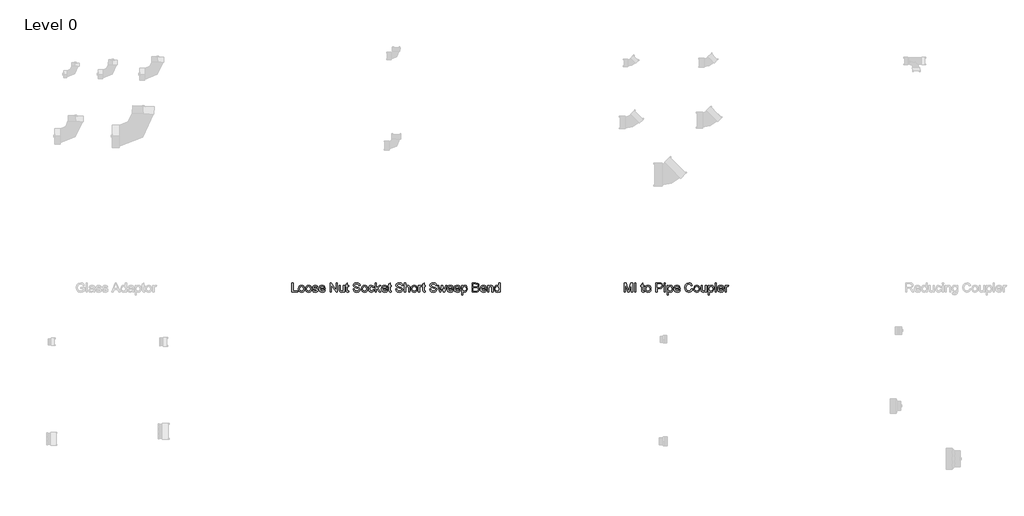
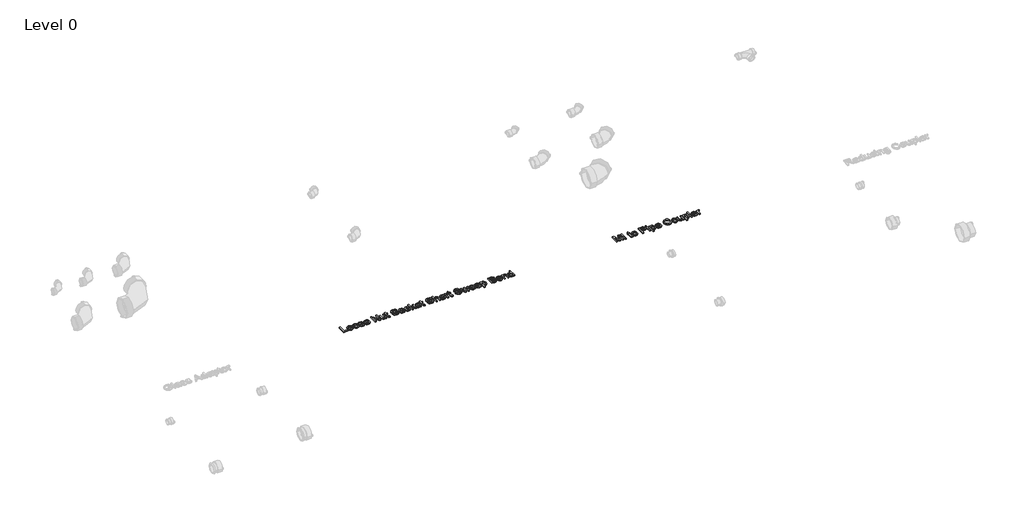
# One storey, part 6 of 10: 2 proxies.
"""IFC4 building model written with IfcOpenShell, lengths in millimetres."""

from ifc_helpers import new_model, si_unit, origin, origin_with_axes, place, context, project, spatial, polyline, outline, extrude, element, save

model = new_model("IFC4")

# Units and contexts
model_context = context("Model", 3, world=origin())
ifc_project = project(units=[si_unit("LENGTHUNIT", "METRE", prefix="MILLI")], contexts=[model_context])

# Site, building, storey
site = spatial("IfcSite", under=ifc_project)
building = spatial("IfcBuilding", under=site)
storey = spatial("IfcBuildingStorey", under=building, Name="Level 0", Elevation=0.0)

# Proxies
placement = place(None, origin())
element("IfcBuildingElementProxy", 1, Name="75mm Arial", ObjectType="75mm Arial", at=placement, inside=storey, context=model_context, shape_type="SweptSolid", body=[
    extrude(outline(polyline([(-700.8694108, 1106.6243175), (-700.8694108, 1180.4704713), (-684.9859973, 1180.4704713), (-669.8778242, 1128.4211925), (-666.8309492, 1117.5497982), (-663.5316704, 1129.3226348), (-648.6759012, 1180.4704713), (-632.7924877, 1180.4704713), (-632.7924877, 1106.6243175), (-642.0232569, 1106.6243175), (-642.0232569, 1171.2397021), (-660.5749396, 1106.6243175), (-673.0869589, 1106.6243175), (-691.6386416, 1171.2397021), (-691.6386416, 1106.6243175), (-700.8694108, 1106.6243175)])), origin_with_axes(), (0.0, 0.0, 1.0), 10.0),
    extrude(outline(polyline([(-615.4847954, 1106.6243175), (-615.4847954, 1180.4704713), (-606.2540262, 1180.4704713), (-606.2540262, 1106.6243175), (-615.4847954, 1106.6243175)])), origin_with_axes(), (0.0, 0.0, 1.0), 10.0),
    extrude(outline(polyline([(-540.4847954, 1114.3226348), (-539.3309492, 1106.3538848), (-546.2359973, 1105.4704713), (-553.9703723, 1107.0029232), (-557.8285454, 1111.0233559), (-558.9463339, 1121.4981155), (-558.9463339, 1151.6243175), (-565.8694108, 1151.6243175), (-565.8694108, 1160.8550867), (-558.9463339, 1160.8550867), (-558.9463339, 1174.0341732), (-549.7155646, 1179.4608559), (-549.7155646, 1160.8550867), (-540.4847954, 1160.8550867), (-540.4847954, 1151.6243175), (-549.7155646, 1151.6243175), (-549.7155646, 1121.7685482), (-549.2287858, 1117.0089328), (-547.6512617, 1115.3232357), (-544.5052281, 1114.7012405), (-540.4847954, 1114.3226348)])), origin_with_axes(), (0.0, 0.0, 1.0), 10.0),
    extrude(outline(polyline([(-533.5617185, 1133.7397021), (-531.5650238, 1146.8151228), (-525.5749396, 1156.0053271), (-518.1740983, 1160.5080314), (-509.3129204, 1162.0089328), (-499.6156548, 1160.1812586), (-491.8700117, 1154.6982357), (-486.7926379, 1145.9925566), (-485.10018, 1134.4969136), (-488.0929685, 1118.0726348), (-496.8099156, 1108.7787646), (-509.3129204, 1105.4704713), (-519.1273735, 1107.2913848), (-526.8640021, 1112.7541252), (-531.8872894, 1121.6423463), (-533.5617185, 1133.7397021)]), holes=[polyline([(-524.3309492, 1133.7577309), (-520.0581127, 1119.4518415), (-509.3129204, 1114.7012405), (-498.6037858, 1119.4788848), (-494.3309492, 1134.0461925), (-498.6308291, 1148.0275627), (-509.3129204, 1152.7781636), (-520.0581127, 1148.0455915), (-524.3309492, 1133.7577309)])]), origin_with_axes(), (0.0, 0.0, 1.0), 10.0),
    extrude(outline(polyline([(-444.7155646, 1106.6243175), (-444.7155646, 1180.4704713), (-417.3477762, 1180.4704713), (-406.3141223, 1179.7673463), (-397.3447714, 1176.3148223), (-391.5304685, 1169.1753992), (-389.3309492, 1159.1062886), (-390.8160754, 1150.4028631), (-395.2714541, 1143.1507598), (-403.6030346, 1138.255928), (-416.7167666, 1136.6243175), (-435.4847954, 1136.6243175), (-435.4847954, 1106.6243175), (-444.7155646, 1106.6243175)]), holes=[polyline([(-435.4847954, 1145.8550867), (-416.1759012, 1145.8550867), (-402.5821512, 1149.2445098), (-398.5617185, 1158.7817694), (-400.9325117, 1166.4260002), (-407.1614781, 1170.6086925), (-416.3922473, 1171.2397021), (-435.4847954, 1171.2397021), (-435.4847954, 1145.8550867)])]), origin_with_axes(), (0.0, 0.0, 1.0), 10.0),
    extrude(outline(polyline([(-377.7924877, 1106.6243175), (-377.7924877, 1160.8550867), (-368.5617185, 1160.8550867), (-368.5617185, 1106.6243175), (-377.7924877, 1106.6243175)])), origin_with_axes(), (0.0, 0.0, 1.0), 10.0),
    extrude(outline(polyline([(-377.7924877, 1171.2397021), (-377.7924877, 1180.4704713), (-368.5617185, 1180.4704713), (-368.5617185, 1171.2397021), (-377.7924877, 1171.2397021)])), origin_with_axes(), (0.0, 0.0, 1.0), 10.0),
    extrude(outline(polyline([(-354.7155646, 1085.8550867), (-354.7155646, 1160.8550867), (-345.4847954, 1160.8550867), (-345.4847954, 1151.8046059), (-339.1025839, 1159.4578511), (-330.4847954, 1162.0089328), (-318.7840742, 1158.4392213), (-311.1398435, 1148.3791252), (-308.5617185, 1134.1543655), (-311.4733771, 1119.1994377), (-319.928906, 1109.0131396), (-331.6025839, 1105.4704713), (-339.6344348, 1107.8412646), (-345.4847954, 1113.8358559), (-345.4847954, 1085.8550867), (-354.7155646, 1085.8550867)]), holes=[polyline([(-345.4847954, 1133.3070098), (-341.491406, 1119.2445098), (-331.8009012, 1114.7012405), (-321.9120791, 1119.4067694), (-317.7924877, 1133.9921059), (-321.8129204, 1148.0906636), (-331.4222954, 1152.7781636), (-341.2209733, 1147.7931877), (-345.4847954, 1133.3070098)])]), origin_with_axes(), (0.0, 0.0, 1.0), 10.0),
    extrude(outline(polyline([(-260.2083531, 1122.7781636), (-251.1578723, 1121.6243175), (-259.6224156, 1109.7072502), (-275.3886416, 1105.4704713), (-286.2194709, 1107.2981456), (-294.553305, 1112.7811684), (-299.8673074, 1121.5634701), (-301.6386416, 1133.2889809), (-299.8492786, 1145.4088728), (-294.4811896, 1154.4728752), (-286.2600358, 1160.1249184), (-275.9114781, 1162.0089328), (-265.885186, 1160.1294256), (-257.8736175, 1154.490904), (-252.6204625, 1145.4449304), (-250.8694108, 1133.3430675), (-250.9234973, 1130.8550867), (-292.4078723, 1130.8550867), (-287.0983771, 1118.865904), (-275.2083531, 1114.7012405), (-266.1578723, 1116.6303271), (-260.2083531, 1122.7781636)]), holes=[polyline([(-292.4078723, 1140.0858559), (-260.10018, 1140.0858559), (-263.7960935, 1148.4512405), (-275.9475358, 1152.7781636), (-287.3147233, 1149.3256396), (-292.4078723, 1140.0858559)])]), origin_with_axes(), (0.0, 0.0, 1.0), 10.0),
    extrude(outline(polyline([(-159.7155646, 1132.8743175), (-150.4847954, 1130.4945098), (-154.7441103, 1119.7380494), (-161.428305, 1111.8797261), (-170.2083531, 1107.072785), (-180.7552281, 1105.4704713), (-199.9649637, 1110.3202309), (-211.2329925, 1124.3647021), (-215.10018, 1144.1062886), (-210.7281848, 1164.1723944), (-198.2972954, 1177.1802069), (-180.5569108, 1181.6243175), (-170.4359673, 1180.186517), (-162.0683291, 1175.8731155), (-155.7154144, 1168.9500386), (-151.6386416, 1159.6832117), (-160.8694108, 1157.4836925), (-168.4415262, 1168.8328511), (-180.9174877, 1172.3935482), (-195.3585935, 1168.4452309), (-203.5166464, 1157.8442694), (-205.8694108, 1144.1243175), (-203.0839541, 1128.2228752), (-194.4120791, 1118.0636203), (-181.6746992, 1114.7012405), (-167.5490983, 1119.2805675), (-159.7155646, 1132.8743175)])), origin_with_axes(), (0.0, 0.0, 1.0), 10.0),
    extrude(outline(polyline([(-141.2540262, 1133.7397021), (-139.2573315, 1146.8151228), (-133.2672473, 1156.0053271), (-125.866406, 1160.5080314), (-117.0052281, 1162.0089328), (-107.3079625, 1160.1812586), (-99.5623194, 1154.6982357), (-94.4849456, 1145.9925566), (-92.7924877, 1134.4969136), (-95.7852762, 1118.0726348), (-104.5022233, 1108.7787646), (-117.0052281, 1105.4704713), (-126.8196812, 1107.2913848), (-134.5563098, 1112.7541252), (-139.5795971, 1121.6423463), (-141.2540262, 1133.7397021)]), holes=[polyline([(-132.0232569, 1133.7577309), (-127.7504204, 1119.4518415), (-117.0052281, 1114.7012405), (-106.2960935, 1119.4788848), (-102.0232569, 1134.0461925), (-106.3231367, 1148.0275627), (-117.0052281, 1152.7781636), (-127.7504204, 1148.0455915), (-132.0232569, 1133.7577309)])]), origin_with_axes(), (0.0, 0.0, 1.0), 10.0),
    extrude(outline(polyline([(-47.7924877, 1106.6243175), (-47.7924877, 1115.9452309), (-55.022055, 1108.0891612), (-64.4511416, 1105.4704713), (-73.132031, 1107.3094136), (-79.1176079, 1111.9247982), (-81.8670069, 1118.7216732), (-82.4078723, 1127.303404), (-82.4078723, 1160.8550867), (-73.1771031, 1160.8550867), (-73.1771031, 1131.6483559), (-72.6182089, 1122.2372982), (-68.9673675, 1116.7114569), (-62.0893627, 1114.7012405), (-54.382031, 1116.756529), (-49.2888819, 1122.3544857), (-47.7924877, 1132.6399425), (-47.7924877, 1160.8550867), (-38.5617185, 1160.8550867), (-38.5617185, 1106.6243175), (-47.7924877, 1106.6243175)])), origin_with_axes(), (0.0, 0.0, 1.0), 10.0),
    extrude(outline(polyline([(-25.8694108, 1085.8550867), (-25.8694108, 1160.8550867), (-16.6386416, 1160.8550867), (-16.6386416, 1151.8046059), (-10.25643, 1159.4578511), (-1.6386416, 1162.0089328), (10.0620796, 1158.4392213), (17.7063104, 1148.3791252), (20.2844354, 1134.1543655), (17.3727767, 1119.1994377), (8.9172479, 1109.0131396), (-2.75643, 1105.4704713), (-10.788281, 1107.8412646), (-16.6386416, 1113.8358559), (-16.6386416, 1085.8550867), (-25.8694108, 1085.8550867)]), holes=[polyline([(-16.6386416, 1133.3070098), (-12.6452521, 1119.2445098), (-2.9547473, 1114.7012405), (6.9340748, 1119.4067694), (11.0536661, 1133.9921059), (7.0332334, 1148.0906636), (-2.5761416, 1152.7781636), (-12.3748194, 1147.7931877), (-16.6386416, 1133.3070098)])]), origin_with_axes(), (0.0, 0.0, 1.0), 10.0),
    extrude(outline(polyline([(30.6690508, 1106.6243175), (30.6690508, 1180.4704713), (39.89982, 1180.4704713), (39.89982, 1106.6243175), (30.6690508, 1106.6243175)])), origin_with_axes(), (0.0, 0.0, 1.0), 10.0),
    extrude(outline(polyline([(91.7147238, 1122.7781636), (100.7652046, 1121.6243175), (92.3006613, 1109.7072502), (76.5344354, 1105.4704713), (65.703606, 1107.2981456), (57.3697719, 1112.7811684), (52.0557695, 1121.5634701), (50.2844354, 1133.2889809), (52.0737983, 1145.4088728), (57.4418873, 1154.4728752), (65.6630411, 1160.1249184), (76.0115988, 1162.0089328), (86.0378909, 1160.1294256), (94.0494594, 1154.490904), (99.3026145, 1145.4449304), (101.0536661, 1133.3430675), (100.9995796, 1130.8550867), (59.5152046, 1130.8550867), (64.8246998, 1118.865904), (76.7147238, 1114.7012405), (85.7652046, 1116.6303271), (91.7147238, 1122.7781636)]), holes=[polyline([(59.5152046, 1140.0858559), (91.8228969, 1140.0858559), (88.1269834, 1148.4512405), (75.9755411, 1152.7781636), (64.6083536, 1149.3256396), (59.5152046, 1140.0858559)])]), origin_with_axes(), (0.0, 0.0, 1.0), 10.0),
    extrude(outline(polyline([(110.2844354, 1106.6243175), (110.2844354, 1160.8550867), (118.3613584, 1160.8550867), (118.3613584, 1152.8322502), (124.0945315, 1160.2240771), (129.8637623, 1162.0089328), (139.1305892, 1159.1603752), (136.0476565, 1150.8851348), (129.5572719, 1152.7781636), (124.3379209, 1150.9572502), (121.0115988, 1145.9091732), (119.5152046, 1135.1279232), (119.5152046, 1106.6243175), (110.2844354, 1106.6243175)])), origin_with_axes(), (0.0, 0.0, 1.0), 10.0),
])
element("IfcBuildingElementProxy", 2, Name="75mm Arial", ObjectType="75mm Arial", at=placement, inside=storey, context=model_context, shape_type="SweptSolid", body=[
    extrude(outline(polyline([(-3371.4463339, 1106.6243175), (-3371.4463339, 1180.4704713), (-3362.2155646, 1180.4704713), (-3362.2155646, 1115.8550867), (-3325.2924877, 1115.8550867), (-3325.2924877, 1106.6243175), (-3371.4463339, 1106.6243175)])), origin_with_axes(), (0.0, 0.0, 1.0), 10.0),
    extrude(outline(polyline([(-3318.3694108, 1133.7397021), (-3316.3727161, 1146.8151228), (-3310.3826319, 1156.0053271), (-3302.9817906, 1160.5080314), (-3294.1206127, 1162.0089328), (-3284.4233471, 1160.1812586), (-3276.6777041, 1154.6982357), (-3271.6003303, 1145.9925566), (-3269.9078723, 1134.4969136), (-3272.9006608, 1118.0726348), (-3281.6176079, 1108.7787646), (-3294.1206127, 1105.4704713), (-3303.9350658, 1107.2913848), (-3311.6716944, 1112.7541252), (-3316.6949817, 1121.6423463), (-3318.3694108, 1133.7397021)]), holes=[polyline([(-3309.1386416, 1133.7577309), (-3304.865805, 1119.4518415), (-3294.1206127, 1114.7012405), (-3283.4114781, 1119.4788848), (-3279.1386416, 1134.0461925), (-3283.4385214, 1148.0275627), (-3294.1206127, 1152.7781636), (-3304.865805, 1148.0455915), (-3309.1386416, 1133.7577309)])]), origin_with_axes(), (0.0, 0.0, 1.0), 10.0),
    extrude(outline(polyline([(-3261.8309492, 1133.7397021), (-3259.8342545, 1146.8151228), (-3253.8441704, 1156.0053271), (-3246.4433291, 1160.5080314), (-3237.5821512, 1162.0089328), (-3227.8848855, 1160.1812586), (-3220.1392425, 1154.6982357), (-3215.0618687, 1145.9925566), (-3213.3694108, 1134.4969136), (-3216.3621992, 1118.0726348), (-3225.0791464, 1108.7787646), (-3237.5821512, 1105.4704713), (-3247.3966043, 1107.2913848), (-3255.1332329, 1112.7541252), (-3260.1565202, 1121.6423463), (-3261.8309492, 1133.7397021)]), holes=[polyline([(-3252.60018, 1133.7577309), (-3248.3273435, 1119.4518415), (-3237.5821512, 1114.7012405), (-3226.8730166, 1119.4788848), (-3222.60018, 1134.0461925), (-3226.9000598, 1148.0275627), (-3237.5821512, 1152.7781636), (-3248.3273435, 1148.0455915), (-3252.60018, 1133.7577309)])]), origin_with_axes(), (0.0, 0.0, 1.0), 10.0),
    extrude(outline(polyline([(-3206.4463339, 1122.7781636), (-3197.2155646, 1123.9320098), (-3192.9427281, 1117.0810482), (-3183.1530646, 1114.7012405), (-3173.7420069, 1116.8827309), (-3170.6771031, 1122.0029232), (-3173.7600358, 1126.1495578), (-3183.2612377, 1128.7817694), (-3197.1614781, 1133.2979953), (-3203.2281848, 1138.5714328), (-3205.2924877, 1146.0173463), (-3203.6338339, 1152.8953511), (-3199.1085935, 1158.1507598), (-3193.2402041, 1160.88213), (-3185.2984973, 1162.0089328), (-3174.0665262, 1160.1970338), (-3166.9271031, 1155.2931877), (-3163.7540262, 1147.0089328), (-3172.9847954, 1145.8550867), (-3176.4553483, 1150.9482357), (-3184.5773435, 1152.7781636), (-3193.4114781, 1151.0293655), (-3196.0617185, 1146.9548463), (-3194.9619589, 1144.2685482), (-3191.5184492, 1142.2312886), (-3183.5677281, 1140.2661444), (-3170.0190502, 1135.9211925), (-3163.7269829, 1130.9993175), (-3161.4463339, 1122.9764809), (-3164.1236175, 1114.1423463), (-3171.8489781, 1107.7330915), (-3183.2792666, 1105.4704713), (-3199.3790262, 1109.8334521), (-3206.4463339, 1122.7781636)])), origin_with_axes(), (0.0, 0.0, 1.0), 10.0),
    extrude(outline(polyline([(-3113.0929685, 1122.7781636), (-3104.0424877, 1121.6243175), (-3112.507031, 1109.7072502), (-3128.2732569, 1105.4704713), (-3139.1040863, 1107.2981456), (-3147.4379204, 1112.7811684), (-3152.7519228, 1121.5634701), (-3154.5232569, 1133.2889809), (-3152.733894, 1145.4088728), (-3147.365805, 1154.4728752), (-3139.1446512, 1160.1249184), (-3128.7960935, 1162.0089328), (-3118.7698014, 1160.1294256), (-3110.7582329, 1154.490904), (-3105.5050779, 1145.4449304), (-3103.7540262, 1133.3430675), (-3103.8081127, 1130.8550867), (-3145.2924877, 1130.8550867), (-3139.9829925, 1118.865904), (-3128.0929685, 1114.7012405), (-3119.0424877, 1116.6303271), (-3113.0929685, 1122.7781636)]), holes=[polyline([(-3145.2924877, 1140.0858559), (-3112.9847954, 1140.0858559), (-3116.6807089, 1148.4512405), (-3128.8321512, 1152.7781636), (-3140.1993387, 1149.3256396), (-3145.2924877, 1140.0858559)])]), origin_with_axes(), (0.0, 0.0, 1.0), 10.0),
    extrude(outline(polyline([(-3064.5232569, 1106.6243175), (-3064.5232569, 1180.4704713), (-3054.6434492, 1180.4704713), (-3016.0617185, 1121.9668655), (-3016.0617185, 1180.4704713), (-3006.8309492, 1180.4704713), (-3006.8309492, 1106.6243175), (-3016.7107569, 1106.6243175), (-3055.2924877, 1165.1459521), (-3055.2924877, 1106.6243175), (-3064.5232569, 1106.6243175)])), origin_with_axes(), (0.0, 0.0, 1.0), 10.0),
    extrude(outline(polyline([(-2957.2155646, 1106.6243175), (-2957.2155646, 1115.9452309), (-2964.4451319, 1108.0891612), (-2973.8742185, 1105.4704713), (-2982.5551079, 1107.3094136), (-2988.5406848, 1111.9247982), (-2991.2900839, 1118.7216732), (-2991.8309492, 1127.303404), (-2991.8309492, 1160.8550867), (-2982.60018, 1160.8550867), (-2982.60018, 1131.6483559), (-2982.0412858, 1122.2372982), (-2978.3904444, 1116.7114569), (-2971.5124396, 1114.7012405), (-2963.8051079, 1116.756529), (-2958.7119589, 1122.3544857), (-2957.2155646, 1132.6399425), (-2957.2155646, 1160.8550867), (-2947.9847954, 1160.8550867), (-2947.9847954, 1106.6243175), (-2957.2155646, 1106.6243175)])), origin_with_axes(), (0.0, 0.0, 1.0), 10.0),
    extrude(outline(polyline([(-2915.6771031, 1114.3226348), (-2914.5232569, 1106.3538848), (-2921.428305, 1105.4704713), (-2929.16268, 1107.0029232), (-2933.0208531, 1111.0233559), (-2934.1386416, 1121.4981155), (-2934.1386416, 1151.6243175), (-2941.0617185, 1151.6243175), (-2941.0617185, 1160.8550867), (-2934.1386416, 1160.8550867), (-2934.1386416, 1174.0341732), (-2924.9078723, 1179.4608559), (-2924.9078723, 1160.8550867), (-2915.6771031, 1160.8550867), (-2915.6771031, 1151.6243175), (-2924.9078723, 1151.6243175), (-2924.9078723, 1121.7685482), (-2924.4210935, 1117.0089328), (-2922.8435694, 1115.3232357), (-2919.6975358, 1114.7012405), (-2915.6771031, 1114.3226348)])), origin_with_axes(), (0.0, 0.0, 1.0), 10.0),
    extrude(outline(polyline([(-2879.9078723, 1132.0089328), (-2870.6771031, 1132.0089328), (-2867.7023435, 1122.7691492), (-2860.4367185, 1116.927803), (-2849.3670069, 1114.7012405), (-2839.7215742, 1116.3869377), (-2833.4926079, 1121.0203511), (-2831.4463339, 1127.2132598), (-2832.9787858, 1132.9734761), (-2839.2528242, 1137.1651828), (-2852.6933291, 1140.6898223), (-2867.1614781, 1145.2421059), (-2875.0130406, 1152.1110963), (-2877.60018, 1161.287779), (-2874.4000598, 1171.7354953), (-2865.0521031, 1179.1092934), (-2851.3682089, 1181.6243175), (-2836.7648435, 1178.9921059), (-2827.0292666, 1171.2577309), (-2823.3694108, 1159.7012405), (-2832.60018, 1159.7012405), (-2837.8285454, 1169.1844136), (-2851.0076319, 1172.3935482), (-2864.2227762, 1169.2204713), (-2868.3694108, 1161.5582117), (-2865.4307089, 1155.1579713), (-2850.3585935, 1150.0017213), (-2834.0244589, 1145.3683078), (-2825.0911656, 1137.8863367), (-2822.2155646, 1127.4476348), (-2825.5238579, 1116.4049665), (-2835.0430887, 1108.3460723), (-2849.00643, 1105.4704713), (-2865.4938098, 1108.5714328), (-2875.9234973, 1117.9103752), (-2879.9078723, 1132.0089328)])), origin_with_axes(), (0.0, 0.0, 1.0), 10.0),
    extrude(outline(polyline([(-2811.8309492, 1133.7397021), (-2809.8342545, 1146.8151228), (-2803.8441704, 1156.0053271), (-2796.4433291, 1160.5080314), (-2787.5821512, 1162.0089328), (-2777.8848855, 1160.1812586), (-2770.1392425, 1154.6982357), (-2765.0618687, 1145.9925566), (-2763.3694108, 1134.4969136), (-2766.3621992, 1118.0726348), (-2775.0791464, 1108.7787646), (-2787.5821512, 1105.4704713), (-2797.3966043, 1107.2913848), (-2805.1332329, 1112.7541252), (-2810.1565202, 1121.6423463), (-2811.8309492, 1133.7397021)]), holes=[polyline([(-2802.60018, 1133.7577309), (-2798.3273435, 1119.4518415), (-2787.5821512, 1114.7012405), (-2776.8730166, 1119.4788848), (-2772.60018, 1134.0461925), (-2776.9000598, 1148.0275627), (-2787.5821512, 1152.7781636), (-2798.3273435, 1148.0455915), (-2802.60018, 1133.7577309)])]), origin_with_axes(), (0.0, 0.0, 1.0), 10.0),
    extrude(outline(polyline([(-2718.3694108, 1126.2397021), (-2709.1386416, 1125.0858559), (-2716.5484973, 1110.6717934), (-2731.1879204, 1105.4704713), (-2741.0068807, 1107.284624), (-2748.6849156, 1112.7270819), (-2753.6405947, 1121.5589629), (-2755.2924877, 1133.5413848), (-2752.4709733, 1148.8749184), (-2743.8712137, 1158.7276828), (-2731.3141223, 1162.0089328), (-2717.2786656, 1157.5017213), (-2710.2924877, 1144.7012405), (-2719.5232569, 1143.5473944), (-2723.8051079, 1150.4614569), (-2731.2420069, 1152.7781636), (-2741.9421271, 1148.2168655), (-2746.0617185, 1133.7937886), (-2742.0322714, 1119.2354953), (-2731.4944108, 1114.7012405), (-2722.7954925, 1117.5317694), (-2718.3694108, 1126.2397021)])), origin_with_axes(), (0.0, 0.0, 1.0), 10.0),
    extrude(outline(polyline([(-2701.0617185, 1106.6243175), (-2701.0617185, 1180.4704713), (-2691.8309492, 1180.4704713), (-2691.8309492, 1140.7889809), (-2671.1338339, 1160.8550867), (-2658.3694108, 1160.8550867), (-2679.31893, 1140.5365771), (-2657.2155646, 1106.6243175), (-2667.9968146, 1106.6243175), (-2685.9355166, 1134.1183078), (-2691.8309492, 1128.4031636), (-2691.8309492, 1106.6243175), (-2701.0617185, 1106.6243175)])), origin_with_axes(), (0.0, 0.0, 1.0), 10.0),
    extrude(outline(polyline([(-2611.1698916, 1122.7781636), (-2602.1194108, 1121.6243175), (-2610.5839541, 1109.7072502), (-2626.35018, 1105.4704713), (-2637.1810093, 1107.2981456), (-2645.5148435, 1112.7811684), (-2650.8288459, 1121.5634701), (-2652.60018, 1133.2889809), (-2650.810817, 1145.4088728), (-2645.4427281, 1154.4728752), (-2637.2215742, 1160.1249184), (-2626.8730166, 1162.0089328), (-2616.8467245, 1160.1294256), (-2608.835156, 1154.490904), (-2603.5820009, 1145.4449304), (-2601.8309492, 1133.3430675), (-2601.8850358, 1130.8550867), (-2643.3694108, 1130.8550867), (-2638.0599156, 1118.865904), (-2626.1698916, 1114.7012405), (-2617.1194108, 1116.6303271), (-2611.1698916, 1122.7781636)]), holes=[polyline([(-2643.3694108, 1140.0858559), (-2611.0617185, 1140.0858559), (-2614.7576319, 1148.4512405), (-2626.9090742, 1152.7781636), (-2638.2762617, 1149.3256396), (-2643.3694108, 1140.0858559)])]), origin_with_axes(), (0.0, 0.0, 1.0), 10.0),
    extrude(outline(polyline([(-2572.9847954, 1114.3226348), (-2571.8309492, 1106.3538848), (-2578.7359973, 1105.4704713), (-2586.4703723, 1107.0029232), (-2590.3285454, 1111.0233559), (-2591.4463339, 1121.4981155), (-2591.4463339, 1151.6243175), (-2598.3694108, 1151.6243175), (-2598.3694108, 1160.8550867), (-2591.4463339, 1160.8550867), (-2591.4463339, 1174.0341732), (-2582.2155646, 1179.4608559), (-2582.2155646, 1160.8550867), (-2572.9847954, 1160.8550867), (-2572.9847954, 1151.6243175), (-2582.2155646, 1151.6243175), (-2582.2155646, 1121.7685482), (-2581.7287858, 1117.0089328), (-2580.1512617, 1115.3232357), (-2577.0052281, 1114.7012405), (-2572.9847954, 1114.3226348)])), origin_with_axes(), (0.0, 0.0, 1.0), 10.0),
    extrude(outline(polyline([(-2537.2155646, 1132.0089328), (-2527.9847954, 1132.0089328), (-2525.0100358, 1122.7691492), (-2517.7444108, 1116.927803), (-2506.6746992, 1114.7012405), (-2497.0292666, 1116.3869377), (-2490.8003002, 1121.0203511), (-2488.7540262, 1127.2132598), (-2490.2864781, 1132.9734761), (-2496.5605166, 1137.1651828), (-2510.0010214, 1140.6898223), (-2524.4691704, 1145.2421059), (-2532.3207329, 1152.1110963), (-2534.9078723, 1161.287779), (-2531.7077521, 1171.7354953), (-2522.3597954, 1179.1092934), (-2508.6759012, 1181.6243175), (-2494.0725358, 1178.9921059), (-2484.3369589, 1171.2577309), (-2480.6771031, 1159.7012405), (-2489.9078723, 1159.7012405), (-2495.1362377, 1169.1844136), (-2508.3153242, 1172.3935482), (-2521.5304685, 1169.2204713), (-2525.6771031, 1161.5582117), (-2522.7384012, 1155.1579713), (-2507.6662858, 1150.0017213), (-2491.3321512, 1145.3683078), (-2482.3988579, 1137.8863367), (-2479.5232569, 1127.4476348), (-2482.8315502, 1116.4049665), (-2492.350781, 1108.3460723), (-2506.3141223, 1105.4704713), (-2522.8015021, 1108.5714328), (-2533.2311896, 1117.9103752), (-2537.2155646, 1132.0089328)])), origin_with_axes(), (0.0, 0.0, 1.0), 10.0),
    extrude(outline(polyline([(-2466.8309492, 1106.6243175), (-2466.8309492, 1180.4704713), (-2457.60018, 1180.4704713), (-2457.60018, 1153.319029), (-2450.4021632, 1159.8364569), (-2441.5364781, 1162.0089328), (-2431.1698916, 1159.6381396), (-2424.8778242, 1153.084654), (-2422.9847954, 1140.9512405), (-2422.9847954, 1106.6243175), (-2432.2155646, 1106.6243175), (-2432.2155646, 1139.9957117), (-2435.1542666, 1149.7312886), (-2443.4835935, 1152.7781636), (-2451.0466944, 1150.7228752), (-2456.0947714, 1145.1519617), (-2457.60018, 1135.4344136), (-2457.60018, 1106.6243175), (-2466.8309492, 1106.6243175)])), origin_with_axes(), (0.0, 0.0, 1.0), 10.0),
    extrude(outline(polyline([(-2412.60018, 1133.7397021), (-2410.6034853, 1146.8151228), (-2404.6134012, 1156.0053271), (-2397.2125598, 1160.5080314), (-2388.3513819, 1162.0089328), (-2378.6541163, 1160.1812586), (-2370.9084733, 1154.6982357), (-2365.8310995, 1145.9925566), (-2364.1386416, 1134.4969136), (-2367.13143, 1118.0726348), (-2375.8483771, 1108.7787646), (-2388.3513819, 1105.4704713), (-2398.1658351, 1107.2913848), (-2405.9024637, 1112.7541252), (-2410.9257509, 1121.6423463), (-2412.60018, 1133.7397021)]), holes=[polyline([(-2403.3694108, 1133.7577309), (-2399.0965742, 1119.4518415), (-2388.3513819, 1114.7012405), (-2377.6422473, 1119.4788848), (-2373.3694108, 1134.0461925), (-2377.6692906, 1148.0275627), (-2388.3513819, 1152.7781636), (-2399.0965742, 1148.0455915), (-2403.3694108, 1133.7577309)])]), origin_with_axes(), (0.0, 0.0, 1.0), 10.0),
    extrude(outline(polyline([(-2353.7540262, 1106.6243175), (-2353.7540262, 1160.8550867), (-2345.6771031, 1160.8550867), (-2345.6771031, 1152.8322502), (-2339.94393, 1160.2240771), (-2334.1746992, 1162.0089328), (-2324.9078723, 1159.1603752), (-2327.990805, 1150.8851348), (-2334.4811896, 1152.7781636), (-2339.7005406, 1150.9572502), (-2343.0268627, 1145.9091732), (-2344.5232569, 1135.1279232), (-2344.5232569, 1106.6243175), (-2353.7540262, 1106.6243175)])), origin_with_axes(), (0.0, 0.0, 1.0), 10.0),
    extrude(outline(polyline([(-2299.5232569, 1114.3226348), (-2298.3694108, 1106.3538848), (-2305.2744589, 1105.4704713), (-2313.0088339, 1107.0029232), (-2316.8670069, 1111.0233559), (-2317.9847954, 1121.4981155), (-2317.9847954, 1151.6243175), (-2324.9078723, 1151.6243175), (-2324.9078723, 1160.8550867), (-2317.9847954, 1160.8550867), (-2317.9847954, 1174.0341732), (-2308.7540262, 1179.4608559), (-2308.7540262, 1160.8550867), (-2299.5232569, 1160.8550867), (-2299.5232569, 1151.6243175), (-2308.7540262, 1151.6243175), (-2308.7540262, 1121.7685482), (-2308.2672473, 1117.0089328), (-2306.6897233, 1115.3232357), (-2303.5436896, 1114.7012405), (-2299.5232569, 1114.3226348)])), origin_with_axes(), (0.0, 0.0, 1.0), 10.0),
    extrude(outline(polyline([(-2263.7540262, 1132.0089328), (-2254.5232569, 1132.0089328), (-2251.5484973, 1122.7691492), (-2244.2828723, 1116.927803), (-2233.2131608, 1114.7012405), (-2223.5677281, 1116.3869377), (-2217.3387617, 1121.0203511), (-2215.2924877, 1127.2132598), (-2216.8249396, 1132.9734761), (-2223.0989781, 1137.1651828), (-2236.5394829, 1140.6898223), (-2251.0076319, 1145.2421059), (-2258.8591944, 1152.1110963), (-2261.4463339, 1161.287779), (-2258.2462137, 1171.7354953), (-2248.8982569, 1179.1092934), (-2235.2143627, 1181.6243175), (-2220.6109973, 1178.9921059), (-2210.8754204, 1171.2577309), (-2207.2155646, 1159.7012405), (-2216.4463339, 1159.7012405), (-2221.6746992, 1169.1844136), (-2234.8537858, 1172.3935482), (-2248.06893, 1169.2204713), (-2252.2155646, 1161.5582117), (-2249.2768627, 1155.1579713), (-2234.2047473, 1150.0017213), (-2217.8706127, 1145.3683078), (-2208.9373194, 1137.8863367), (-2206.0617185, 1127.4476348), (-2209.3700117, 1116.4049665), (-2218.8892425, 1108.3460723), (-2232.8525839, 1105.4704713), (-2249.3399637, 1108.5714328), (-2259.7696512, 1117.9103752), (-2263.7540262, 1132.0089328)])), origin_with_axes(), (0.0, 0.0, 1.0), 10.0),
    extrude(outline(polyline([(-2184.3730166, 1106.6243175), (-2200.8694108, 1160.8550867), (-2191.2780646, 1160.8550867), (-2181.9210935, 1129.2144617), (-2179.1266223, 1117.9103752), (-2176.8369589, 1128.7997982), (-2169.3910454, 1160.8550867), (-2158.3934492, 1160.8550867), (-2150.9835935, 1128.8899425), (-2148.9463339, 1119.0281636), (-2146.0256608, 1129.4308078), (-2136.6506608, 1160.8550867), (-2127.0232569, 1160.8550867), (-2143.6458531, 1106.6243175), (-2154.8057089, 1106.6243175), (-2161.8910454, 1138.4272021), (-2163.9463339, 1148.3430675), (-2173.0869589, 1106.6243175), (-2184.3730166, 1106.6243175)])), origin_with_axes(), (0.0, 0.0, 1.0), 10.0),
    extrude(outline(polyline([(-2082.7083531, 1122.7781636), (-2073.6578723, 1121.6243175), (-2082.1224156, 1109.7072502), (-2097.8886416, 1105.4704713), (-2108.7194709, 1107.2981456), (-2117.053305, 1112.7811684), (-2122.3673074, 1121.5634701), (-2124.1386416, 1133.2889809), (-2122.3492786, 1145.4088728), (-2116.9811896, 1154.4728752), (-2108.7600358, 1160.1249184), (-2098.4114781, 1162.0089328), (-2088.385186, 1160.1294256), (-2080.3736175, 1154.490904), (-2075.1204625, 1145.4449304), (-2073.3694108, 1133.3430675), (-2073.4234973, 1130.8550867), (-2114.9078723, 1130.8550867), (-2109.5983771, 1118.865904), (-2097.7083531, 1114.7012405), (-2088.6578723, 1116.6303271), (-2082.7083531, 1122.7781636)]), holes=[polyline([(-2114.9078723, 1140.0858559), (-2082.60018, 1140.0858559), (-2086.2960935, 1148.4512405), (-2098.4475358, 1152.7781636), (-2109.8147233, 1149.3256396), (-2114.9078723, 1140.0858559)])]), origin_with_axes(), (0.0, 0.0, 1.0), 10.0),
    extrude(outline(polyline([(-2026.1698916, 1122.7781636), (-2017.1194108, 1121.6243175), (-2025.5839541, 1109.7072502), (-2041.35018, 1105.4704713), (-2052.1810093, 1107.2981456), (-2060.5148435, 1112.7811684), (-2065.8288459, 1121.5634701), (-2067.60018, 1133.2889809), (-2065.810817, 1145.4088728), (-2060.4427281, 1154.4728752), (-2052.2215742, 1160.1249184), (-2041.8730166, 1162.0089328), (-2031.8467245, 1160.1294256), (-2023.835156, 1154.490904), (-2018.5820009, 1145.4449304), (-2016.8309492, 1133.3430675), (-2016.8850358, 1130.8550867), (-2058.3694108, 1130.8550867), (-2053.0599156, 1118.865904), (-2041.1698916, 1114.7012405), (-2032.1194108, 1116.6303271), (-2026.1698916, 1122.7781636)]), holes=[polyline([(-2058.3694108, 1140.0858559), (-2026.0617185, 1140.0858559), (-2029.7576319, 1148.4512405), (-2041.9090742, 1152.7781636), (-2053.2762617, 1149.3256396), (-2058.3694108, 1140.0858559)])]), origin_with_axes(), (0.0, 0.0, 1.0), 10.0),
    extrude(outline(polyline([(-2007.60018, 1085.8550867), (-2007.60018, 1160.8550867), (-1998.3694108, 1160.8550867), (-1998.3694108, 1151.8046059), (-1991.9871992, 1159.4578511), (-1983.3694108, 1162.0089328), (-1971.6686896, 1158.4392213), (-1964.0244589, 1148.3791252), (-1961.4463339, 1134.1543655), (-1964.3579925, 1119.1994377), (-1972.8135214, 1109.0131396), (-1984.4871992, 1105.4704713), (-1992.5190502, 1107.8412646), (-1998.3694108, 1113.8358559), (-1998.3694108, 1085.8550867), (-2007.60018, 1085.8550867)]), holes=[polyline([(-1998.3694108, 1133.3070098), (-1994.3760214, 1119.2445098), (-1984.6855166, 1114.7012405), (-1974.7966944, 1119.4067694), (-1970.6771031, 1133.9921059), (-1974.6975358, 1148.0906636), (-1984.3069108, 1152.7781636), (-1994.1055887, 1147.7931877), (-1998.3694108, 1133.3070098)])]), origin_with_axes(), (0.0, 0.0, 1.0), 10.0),
    extrude(outline(polyline([(-1921.0617185, 1106.6243175), (-1921.0617185, 1180.4704713), (-1892.8826319, 1180.4704713), (-1879.0815502, 1178.2979953), (-1870.9325117, 1171.6183078), (-1867.9847954, 1162.1711925), (-1870.4637617, 1153.5443896), (-1877.9547473, 1147.0089328), (-1868.8591944, 1140.1219136), (-1865.6771031, 1128.6375386), (-1867.8495791, 1118.7126588), (-1873.2311896, 1111.6453511), (-1881.2630406, 1107.8953511), (-1893.0989781, 1106.6243175), (-1921.0617185, 1106.6243175)]), holes=[polyline([(-1911.8309492, 1150.4704713), (-1894.9739781, 1150.4704713), (-1885.1302281, 1151.2637405), (-1879.2077521, 1154.6802069), (-1877.2155646, 1160.6928271), (-1879.0725358, 1166.7144617), (-1884.3910454, 1170.2751588), (-1896.2540262, 1171.2397021), (-1911.8309492, 1171.2397021), (-1911.8309492, 1150.4704713)]), polyline([(-1911.8309492, 1115.8550867), (-1892.9006608, 1115.8550867), (-1886.0496992, 1116.2156636), (-1880.2534252, 1118.22588), (-1876.413281, 1122.3274425), (-1874.9078723, 1128.5473944), (-1876.6746992, 1135.7228752), (-1882.3988579, 1140.0047261), (-1893.8021031, 1141.2397021), (-1911.8309492, 1141.2397021), (-1911.8309492, 1115.8550867)])]), origin_with_axes(), (0.0, 0.0, 1.0), 10.0),
    extrude(outline(polyline([(-1816.1698916, 1122.7781636), (-1807.1194108, 1121.6243175), (-1815.5839541, 1109.7072502), (-1831.35018, 1105.4704713), (-1842.1810093, 1107.2981456), (-1850.5148435, 1112.7811684), (-1855.8288459, 1121.5634701), (-1857.60018, 1133.2889809), (-1855.810817, 1145.4088728), (-1850.4427281, 1154.4728752), (-1842.2215742, 1160.1249184), (-1831.8730166, 1162.0089328), (-1821.8467245, 1160.1294256), (-1813.835156, 1154.490904), (-1808.5820009, 1145.4449304), (-1806.8309492, 1133.3430675), (-1806.8850358, 1130.8550867), (-1848.3694108, 1130.8550867), (-1843.0599156, 1118.865904), (-1831.1698916, 1114.7012405), (-1822.1194108, 1116.6303271), (-1816.1698916, 1122.7781636)]), holes=[polyline([(-1848.3694108, 1140.0858559), (-1816.0617185, 1140.0858559), (-1819.7576319, 1148.4512405), (-1831.9090742, 1152.7781636), (-1843.2762617, 1149.3256396), (-1848.3694108, 1140.0858559)])]), origin_with_axes(), (0.0, 0.0, 1.0), 10.0),
    extrude(outline(polyline([(-1797.60018, 1106.6243175), (-1797.60018, 1160.8550867), (-1788.3694108, 1160.8550867), (-1788.3694108, 1153.2829713), (-1781.3111175, 1159.8274425), (-1771.6746992, 1162.0089328), (-1762.9577521, 1160.2511203), (-1757.0082329, 1155.6357357), (-1754.240805, 1148.8478752), (-1753.7540262, 1139.9235963), (-1753.7540262, 1106.6243175), (-1762.9847954, 1106.6243175), (-1762.9847954, 1138.6796059), (-1764.0484973, 1146.8466732), (-1767.8075117, 1151.1645819), (-1774.1446512, 1152.7781636), (-1784.1596752, 1149.1543655), (-1788.3694108, 1135.3983559), (-1788.3694108, 1106.6243175), (-1797.60018, 1106.6243175)])), origin_with_axes(), (0.0, 0.0, 1.0), 10.0),
    extrude(outline(polyline([(-1707.60018, 1106.6243175), (-1707.60018, 1115.3322502), (-1713.7074517, 1107.935916), (-1722.1494589, 1105.4704713), (-1733.5797473, 1109.0401828), (-1741.6566704, 1119.0011203), (-1744.5232569, 1133.6856155), (-1741.882031, 1148.3791252), (-1733.9673675, 1158.4933078), (-1722.1855166, 1162.0089328), (-1713.6759012, 1159.4939088), (-1707.60018, 1152.9584521), (-1707.60018, 1180.4704713), (-1698.3694108, 1180.4704713), (-1698.3694108, 1106.6243175), (-1707.60018, 1106.6243175)]), holes=[polyline([(-1735.2924877, 1133.7216732), (-1731.1278242, 1119.4338127), (-1721.3021031, 1114.7012405), (-1711.5935694, 1119.2174665), (-1707.60018, 1133.0185482), (-1711.6656848, 1148.0005194), (-1721.6807089, 1152.7781636), (-1731.3982569, 1148.1898223), (-1735.2924877, 1133.7216732)])]), origin_with_axes(), (0.0, 0.0, 1.0), 10.0),
])

save(model, "model.ifc")
